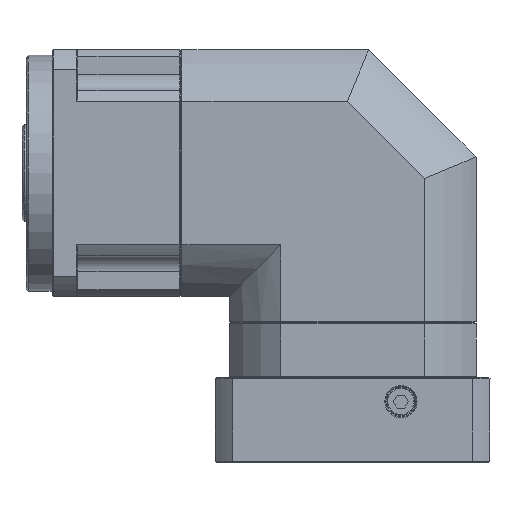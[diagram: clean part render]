
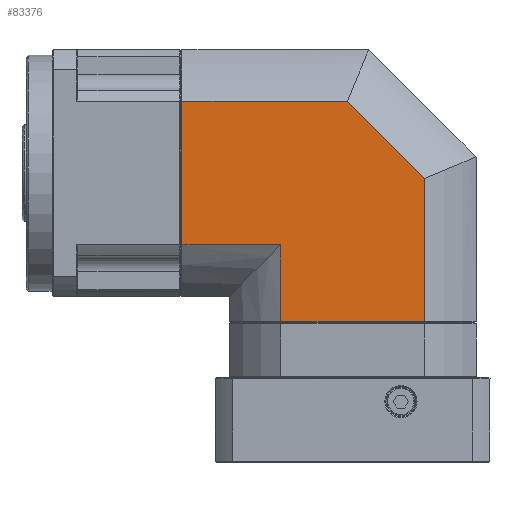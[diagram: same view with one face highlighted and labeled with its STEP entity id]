
A CAD part, left-side view. The second image highlights one B-rep face of the part: STEP entity #83376.
In plain terms, the highlighted planar face has unit normal (1, 0, 0).
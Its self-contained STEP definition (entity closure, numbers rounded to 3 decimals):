
#1916 = VECTOR ( 'NONE', #27386, 1000. ) ;
#2337 = CARTESIAN_POINT ( 'NONE',  ( -57.5, -112.131, 33.407 ) ) ;
#4884 = LINE ( 'NONE', #52682, #75335 ) ;
#5401 = VECTOR ( 'NONE', #25528, 1000. ) ;
#5922 = CARTESIAN_POINT ( 'NONE',  ( -57.5, -148.018, -69.2 ) ) ;
#6028 = DIRECTION ( 'NONE',  ( 0., 0., -1. ) ) ;
#6368 = ORIENTED_EDGE ( 'NONE', *, *, #58342, .F. ) ;
#6565 = ORIENTED_EDGE ( 'NONE', *, *, #76741, .F. ) ;
#7812 = CARTESIAN_POINT ( 'NONE',  ( -57.5, -91.564, -69.2 ) ) ;
#8449 = EDGE_CURVE ( 'NONE', #65910, #41338, #85359, .T. ) ;
#12483 = ORIENTED_EDGE ( 'NONE', *, *, #15618, .F. ) ;
#12815 = DIRECTION ( 'NONE',  ( 0., 1., 0. ) ) ;
#15618 = EDGE_CURVE ( 'NONE', #41338, #58203, #20834, .T. ) ;
#18257 = CARTESIAN_POINT ( 'NONE',  ( -57.5, -35.111, 33.407 ) ) ;
#18673 = CARTESIAN_POINT ( 'NONE',  ( -57.5, -91.564, 33.407 ) ) ;
#20834 = LINE ( 'NONE', #73029, #54993 ) ;
#21768 = AXIS2_PLACEMENT_3D ( 'NONE', #5922, #53668, #12815 ) ;
#25528 = DIRECTION ( 'NONE',  ( 0., 1., 0. ) ) ;
#26292 = LINE ( 'NONE', #88078, #60445 ) ;
#26811 = VERTEX_POINT ( 'NONE', #18257 ) ;
#27143 = LINE ( 'NONE', #7812, #43137 ) ;
#27386 = DIRECTION ( 'NONE',  ( 0., 0., 1. ) ) ;
#28784 = CARTESIAN_POINT ( 'NONE',  ( -57.5, -81.205, -69.2 ) ) ;
#30402 = CARTESIAN_POINT ( 'NONE',  ( -57.5, -35.111, -33.407 ) ) ;
#31240 = CARTESIAN_POINT ( 'NONE',  ( -57.5, -148.018, -17.897 ) ) ;
#38229 = LINE ( 'NONE', #61372, #1916 ) ;
#41338 = VERTEX_POINT ( 'NONE', #65167 ) ;
#43137 = VECTOR ( 'NONE', #69311, 1000. ) ;
#44199 = CARTESIAN_POINT ( 'NONE',  ( -57.5, -148.018, -69.2 ) ) ;
#46879 = VECTOR ( 'NONE', #64929, 1000. ) ;
#52682 = CARTESIAN_POINT ( 'NONE',  ( -57.5, -58.296, -33.407 ) ) ;
#52902 = CARTESIAN_POINT ( 'NONE',  ( -57.5, -81.205, -33.407 ) ) ;
#53668 = DIRECTION ( 'NONE',  ( 1., 0., 0. ) ) ;
#54070 = VERTEX_POINT ( 'NONE', #30402 ) ;
#54993 = VECTOR ( 'NONE', #87023, 1000. ) ;
#57552 = FACE_OUTER_BOUND ( 'NONE', #86359, .T. ) ;
#58203 = VERTEX_POINT ( 'NONE', #2337 ) ;
#58342 = EDGE_CURVE ( 'NONE', #58203, #26811, #59856, .T. ) ;
#58843 = ORIENTED_EDGE ( 'NONE', *, *, #64757, .T. ) ;
#59544 = DIRECTION ( 'NONE',  ( 0., 1., 0. ) ) ;
#59856 = LINE ( 'NONE', #18673, #5401 ) ;
#60445 = VECTOR ( 'NONE', #6028, 1000. ) ;
#61372 = CARTESIAN_POINT ( 'NONE',  ( -57.5, -35.111, 0. ) ) ;
#64757 = EDGE_CURVE ( 'NONE', #78949, #54070, #4884, .T. ) ;
#64929 = DIRECTION ( 'NONE',  ( 0., 0., 1. ) ) ;
#65167 = CARTESIAN_POINT ( 'NONE',  ( -57.5, -148.018, -2.48 ) ) ;
#65910 = VERTEX_POINT ( 'NONE', #44199 ) ;
#67107 = PLANE ( 'NONE',  #21768 ) ;
#67495 = EDGE_CURVE ( 'NONE', #54070, #26811, #38229, .T. ) ;
#68364 = EDGE_CURVE ( 'NONE', #78949, #69407, #26292, .T. ) ;
#69311 = DIRECTION ( 'NONE',  ( 0., -1., 0. ) ) ;
#69407 = VERTEX_POINT ( 'NONE', #28784 ) ;
#73029 = CARTESIAN_POINT ( 'NONE',  ( -57.5, -155.375, -9.837 ) ) ;
#75313 = ORIENTED_EDGE ( 'NONE', *, *, #67495, .T. ) ;
#75335 = VECTOR ( 'NONE', #59544, 1000. ) ;
#76741 = EDGE_CURVE ( 'NONE', #69407, #65910, #27143, .T. ) ;
#78949 = VERTEX_POINT ( 'NONE', #52902 ) ;
#83376 = ADVANCED_FACE ( 'NONE', ( #57552 ), #67107, .T. ) ;
#85359 = LINE ( 'NONE', #31240, #46879 ) ;
#85683 = ORIENTED_EDGE ( 'NONE', *, *, #68364, .F. ) ;
#85941 = ORIENTED_EDGE ( 'NONE', *, *, #8449, .F. ) ;
#86359 = EDGE_LOOP ( 'NONE', ( #75313, #6368, #12483, #85941, #6565, #85683, #58843 ) ) ;
#87023 = DIRECTION ( 'NONE',  ( 0., 0.707, 0.707 ) ) ;
#88078 = CARTESIAN_POINT ( 'NONE',  ( -57.5, -81.205, -17.897 ) ) ;
